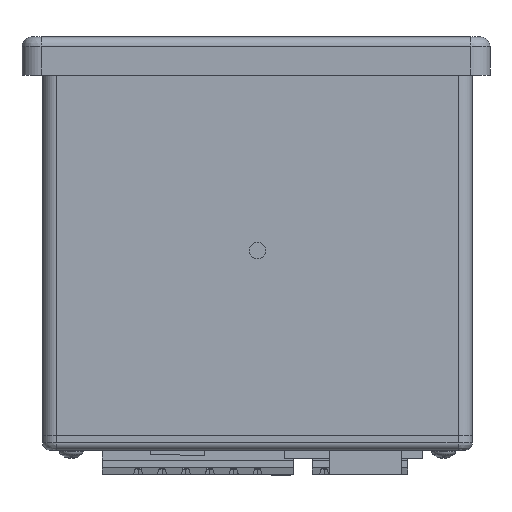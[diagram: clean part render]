
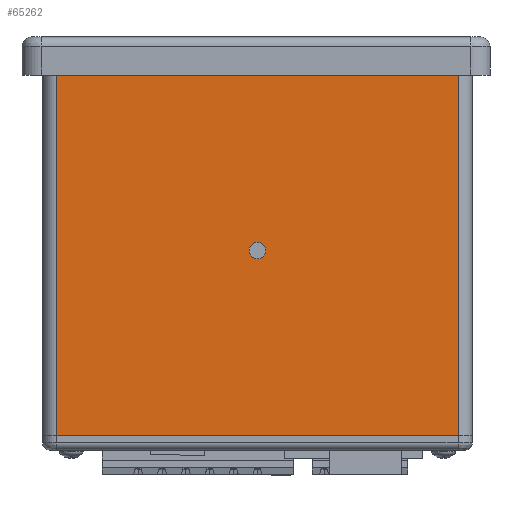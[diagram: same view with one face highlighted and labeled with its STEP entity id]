
A CAD part, front view. The second image highlights one B-rep face of the part: STEP entity #65262.
In plain terms, the highlighted planar face has unit normal (0, -1, 0).
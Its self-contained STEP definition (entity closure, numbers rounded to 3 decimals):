
#3934=FACE_BOUND('',#11493,.T.);
#4810=PLANE('',#69187);
#7591=FACE_OUTER_BOUND('',#11492,.T.);
#11492=EDGE_LOOP('',(#49475,#49476,#49477,#49478));
#11493=EDGE_LOOP('',(#49479));
#14620=LINE('',#91527,#21754);
#16573=LINE('',#95477,#23707);
#16578=LINE('',#95492,#23712);
#16581=LINE('',#95498,#23715);
#21754=VECTOR('',#73807,10.);
#23707=VECTOR('',#77126,10.);
#23712=VECTOR('',#77139,10.);
#23715=VECTOR('',#77148,10.);
#28880=CIRCLE('',#68483,1.75);
#30382=VERTEX_POINT('',#91490);
#30393=VERTEX_POINT('',#91513);
#30399=VERTEX_POINT('',#91525);
#31713=VERTEX_POINT('',#95475);
#31719=VERTEX_POINT('',#95490);
#36217=EDGE_CURVE('',#30382,#30382,#28880,.T.);
#36235=EDGE_CURVE('',#30393,#30399,#14620,.T.);
#38209=EDGE_CURVE('',#31713,#30399,#16573,.T.);
#38217=EDGE_CURVE('',#31713,#31719,#16578,.T.);
#38220=EDGE_CURVE('',#30393,#31719,#16581,.T.);
#49475=ORIENTED_EDGE('',*,*,#38209,.F.);
#49476=ORIENTED_EDGE('',*,*,#38217,.T.);
#49477=ORIENTED_EDGE('',*,*,#38220,.F.);
#49478=ORIENTED_EDGE('',*,*,#36235,.T.);
#49479=ORIENTED_EDGE('',*,*,#36217,.T.);
#65262=ADVANCED_FACE('',(#7591,#3934),#4810,.T.);
#68483=AXIS2_PLACEMENT_3D('',#91491,#73777,#73778);
#69187=AXIS2_PLACEMENT_3D('',#95505,#77158,#77159);
#73777=DIRECTION('center_axis',(0.,1.,0.));
#73778=DIRECTION('ref_axis',(1.,0.,0.));
#73807=DIRECTION('',(-1.,0.,0.));
#77126=DIRECTION('',(0.,0.,1.));
#77139=DIRECTION('',(1.,0.,0.));
#77148=DIRECTION('',(0.,0.,-1.));
#77158=DIRECTION('center_axis',(0.,-1.,0.));
#77159=DIRECTION('ref_axis',(0.,0.,-1.));
#91490=CARTESIAN_POINT('',(-46.75,0.,-36.75));
#91491=CARTESIAN_POINT('Origin',(-45.,0.,-36.75));
#91513=CARTESIAN_POINT('',(-3.,0.,0.));
#91525=CARTESIAN_POINT('',(-87.,0.,0.));
#91527=CARTESIAN_POINT('',(0.,0.,0.));
#95475=CARTESIAN_POINT('',(-87.,0.,-75.5));
#95477=CARTESIAN_POINT('',(-87.,0.,-56.625));
#95490=CARTESIAN_POINT('',(-3.,0.,-75.5));
#95492=CARTESIAN_POINT('',(-90.,0.,-75.5));
#95498=CARTESIAN_POINT('',(-3.,0.,-18.875));
#95505=CARTESIAN_POINT('Origin',(-45.,0.,-37.75));
